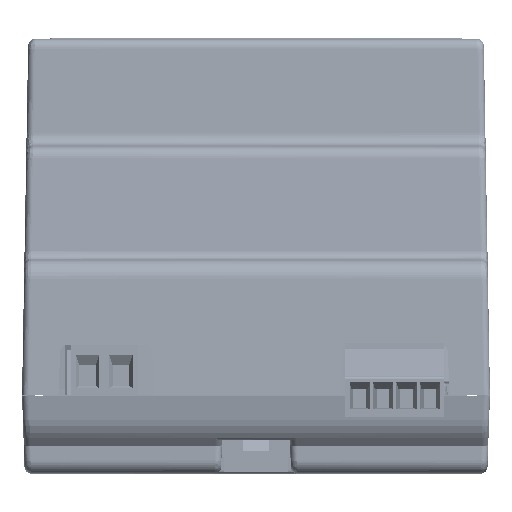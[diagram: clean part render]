
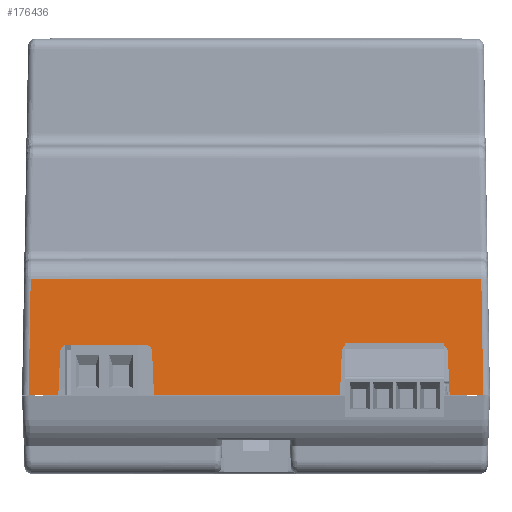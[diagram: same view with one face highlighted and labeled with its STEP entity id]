
A CAD part, left-side view. The second image highlights one B-rep face of the part: STEP entity #176436.
In plain terms, the highlighted planar face has unit normal (-0.999, 0, 0.044).
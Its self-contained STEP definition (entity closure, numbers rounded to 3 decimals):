
#12825=PLANE('',#186841);
#19948=FACE_OUTER_BOUND('',#29597,.T.);
#29597=EDGE_LOOP('',(#127558,#127559,#127560,#127561,#127562,#127563,#127564,
#127565,#127566,#127567,#127568,#127569,#127570,#127571,#127572,#127573));
#41266=LINE('',#250539,#61109);
#41267=LINE('',#250541,#61110);
#41268=LINE('',#250545,#61111);
#41269=LINE('',#250549,#61112);
#41270=LINE('',#250551,#61113);
#41271=LINE('',#250553,#61114);
#41272=LINE('',#250555,#61115);
#41273=LINE('',#250557,#61116);
#41274=LINE('',#250559,#61117);
#41275=LINE('',#250561,#61118);
#41276=LINE('',#250565,#61119);
#41277=LINE('',#250568,#61120);
#61109=VECTOR('',#201536,10.);
#61110=VECTOR('',#201537,10.);
#61111=VECTOR('',#201540,10.);
#61112=VECTOR('',#201543,10.);
#61113=VECTOR('',#201544,10.);
#61114=VECTOR('',#201545,10.);
#61115=VECTOR('',#201546,10.);
#61116=VECTOR('',#201547,10.);
#61117=VECTOR('',#201548,10.);
#61118=VECTOR('',#201549,10.);
#61119=VECTOR('',#201552,10.);
#61120=VECTOR('',#201555,10.);
#79292=ELLIPSE('',#186842,1.001,1.);
#79293=ELLIPSE('',#186843,1.001,1.);
#79294=ELLIPSE('',#186844,1.001,1.);
#79295=ELLIPSE('',#186845,1.001,1.);
#81286=VERTEX_POINT('',#250537);
#81287=VERTEX_POINT('',#250538);
#81288=VERTEX_POINT('',#250540);
#81289=VERTEX_POINT('',#250542);
#81290=VERTEX_POINT('',#250544);
#81291=VERTEX_POINT('',#250546);
#81292=VERTEX_POINT('',#250548);
#81293=VERTEX_POINT('',#250550);
#81294=VERTEX_POINT('',#250552);
#81295=VERTEX_POINT('',#250554);
#81296=VERTEX_POINT('',#250556);
#81297=VERTEX_POINT('',#250558);
#81298=VERTEX_POINT('',#250560);
#81299=VERTEX_POINT('',#250562);
#81300=VERTEX_POINT('',#250564);
#81301=VERTEX_POINT('',#250566);
#99169=EDGE_CURVE('',#81286,#81287,#41266,.F.);
#99170=EDGE_CURVE('',#81287,#81288,#41267,.T.);
#99171=EDGE_CURVE('',#81289,#81288,#79292,.T.);
#99172=EDGE_CURVE('',#81289,#81290,#41268,.T.);
#99173=EDGE_CURVE('',#81291,#81290,#79293,.T.);
#99174=EDGE_CURVE('',#81291,#81292,#41269,.T.);
#99175=EDGE_CURVE('',#81292,#81293,#41270,.F.);
#99176=EDGE_CURVE('',#81294,#81293,#41271,.T.);
#99177=EDGE_CURVE('',#81294,#81295,#41272,.T.);
#99178=EDGE_CURVE('',#81296,#81295,#41273,.T.);
#99179=EDGE_CURVE('',#81296,#81297,#41274,.F.);
#99180=EDGE_CURVE('',#81297,#81298,#41275,.T.);
#99181=EDGE_CURVE('',#81299,#81298,#79294,.T.);
#99182=EDGE_CURVE('',#81299,#81300,#41276,.T.);
#99183=EDGE_CURVE('',#81301,#81300,#79295,.T.);
#99184=EDGE_CURVE('',#81301,#81286,#41277,.T.);
#127558=ORIENTED_EDGE('',*,*,#99169,.T.);
#127559=ORIENTED_EDGE('',*,*,#99170,.T.);
#127560=ORIENTED_EDGE('',*,*,#99171,.F.);
#127561=ORIENTED_EDGE('',*,*,#99172,.T.);
#127562=ORIENTED_EDGE('',*,*,#99173,.F.);
#127563=ORIENTED_EDGE('',*,*,#99174,.T.);
#127564=ORIENTED_EDGE('',*,*,#99175,.T.);
#127565=ORIENTED_EDGE('',*,*,#99176,.F.);
#127566=ORIENTED_EDGE('',*,*,#99177,.T.);
#127567=ORIENTED_EDGE('',*,*,#99178,.F.);
#127568=ORIENTED_EDGE('',*,*,#99179,.T.);
#127569=ORIENTED_EDGE('',*,*,#99180,.T.);
#127570=ORIENTED_EDGE('',*,*,#99181,.F.);
#127571=ORIENTED_EDGE('',*,*,#99182,.T.);
#127572=ORIENTED_EDGE('',*,*,#99183,.F.);
#127573=ORIENTED_EDGE('',*,*,#99184,.T.);
#176436=ADVANCED_FACE('',(#19948),#12825,.T.);
#186841=AXIS2_PLACEMENT_3D('',#250536,#201534,#201535);
#186842=AXIS2_PLACEMENT_3D('',#250543,#201538,#201539);
#186843=AXIS2_PLACEMENT_3D('',#250547,#201541,#201542);
#186844=AXIS2_PLACEMENT_3D('',#250563,#201550,#201551);
#186845=AXIS2_PLACEMENT_3D('',#250567,#201553,#201554);
#201534=DIRECTION('center_axis',(-0.999,0.,0.044));
#201535=DIRECTION('ref_axis',(0.044,0.,0.999));
#201536=DIRECTION('',(0.,1.,0.));
#201537=DIRECTION('',(0.044,-0.044,0.998));
#201538=DIRECTION('center_axis',(-0.999,0.,0.044));
#201539=DIRECTION('ref_axis',(0.044,0.,
0.999));
#201540=DIRECTION('',(0.,-1.,0.));
#201541=DIRECTION('center_axis',(-0.999,0.,0.044));
#201542=DIRECTION('ref_axis',(0.044,0.,0.999));
#201543=DIRECTION('',(-0.044,-0.044,-0.998));
#201544=DIRECTION('',(0.,1.,0.));
#201545=DIRECTION('',(-0.044,-0.017,-0.999));
#201546=DIRECTION('',(0.,1.,0.));
#201547=DIRECTION('',(0.044,-0.017,0.999));
#201548=DIRECTION('',(0.,1.,0.));
#201549=DIRECTION('',(0.044,-0.044,0.998));
#201550=DIRECTION('center_axis',(-0.999,0.,0.044));
#201551=DIRECTION('ref_axis',(0.044,0.,
0.999));
#201552=DIRECTION('',(0.,-1.,0.));
#201553=DIRECTION('center_axis',(-0.999,0.,0.044));
#201554=DIRECTION('ref_axis',(0.044,0.,0.999));
#201555=DIRECTION('',(-0.044,-0.044,-0.998));
#250536=CARTESIAN_POINT('Origin',(-44.239,0.,29.131));
#250537=CARTESIAN_POINT('',(-44.996,50.258,11.8));
#250538=CARTESIAN_POINT('',(-44.996,22.446,11.8));
#250539=CARTESIAN_POINT('',(-44.996,35.938,11.8));
#250540=CARTESIAN_POINT('',(-44.713,22.163,18.28));
#250541=CARTESIAN_POINT('',(-44.392,21.843,25.627));
#250542=CARTESIAN_POINT('',(-44.671,21.164,19.236));
#250543=CARTESIAN_POINT('Origin',(-44.715,21.164,18.236));
#250544=CARTESIAN_POINT('',(-44.671,7.322,19.236));
#250545=CARTESIAN_POINT('',(-44.671,3.182,19.236));
#250546=CARTESIAN_POINT('',(-44.713,6.323,18.28));
#250547=CARTESIAN_POINT('Origin',(-44.715,7.322,18.236));
#250548=CARTESIAN_POINT('',(-44.996,6.04,11.8));
#250549=CARTESIAN_POINT('',(-44.689,6.346,18.825));
#250550=CARTESIAN_POINT('',(-44.996,1.001,11.8));
#250551=CARTESIAN_POINT('',(-44.996,35.938,11.8));
#250552=CARTESIAN_POINT('',(-44.239,1.304,29.131));
#250553=CARTESIAN_POINT('',(-44.724,1.11,18.023));
#250554=CARTESIAN_POINT('',(-44.239,68.696,29.131));
#250555=CARTESIAN_POINT('',(-44.239,0.,29.131));
#250556=CARTESIAN_POINT('',(-44.996,68.999,11.8));
#250557=CARTESIAN_POINT('',(-44.697,68.88,18.633));
#250558=CARTESIAN_POINT('',(-44.996,64.568,11.8));
#250559=CARTESIAN_POINT('',(-44.996,35.938,11.8));
#250560=CARTESIAN_POINT('',(-44.713,64.285,18.28));
#250561=CARTESIAN_POINT('',(-44.327,63.899,27.116));
#250562=CARTESIAN_POINT('',(-44.671,63.286,19.236));
#250563=CARTESIAN_POINT('Origin',(-44.715,63.286,18.236));
#250564=CARTESIAN_POINT('',(-44.671,51.54,19.236));
#250565=CARTESIAN_POINT('',(-44.671,24.717,19.236));
#250566=CARTESIAN_POINT('',(-44.713,50.541,18.28));
#250567=CARTESIAN_POINT('Origin',(-44.715,51.54,18.236));
#250568=CARTESIAN_POINT('',(-44.7,50.554,18.578));
